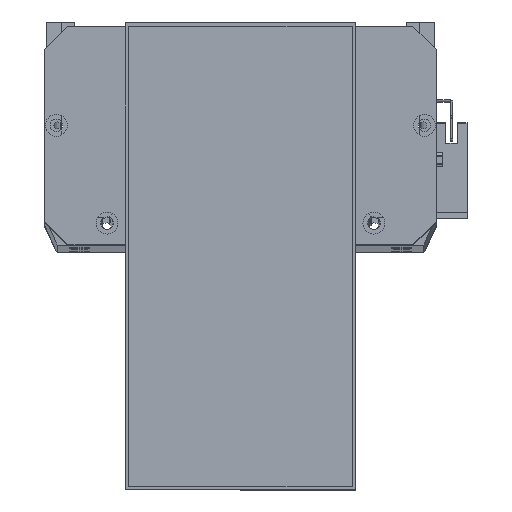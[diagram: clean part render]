
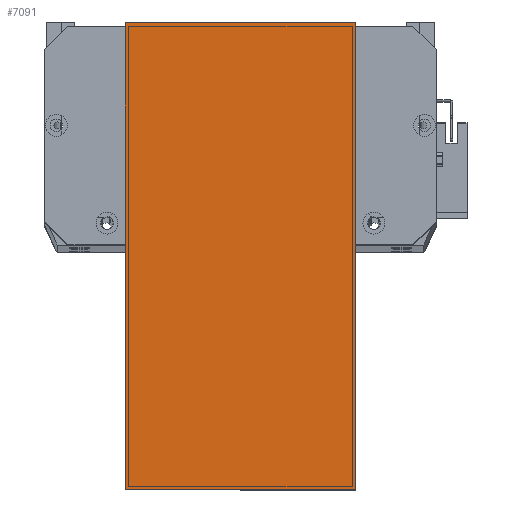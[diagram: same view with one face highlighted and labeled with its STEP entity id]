
A CAD part, top view. The second image highlights one B-rep face of the part: STEP entity #7091.
In plain terms, the highlighted planar face has unit normal (0, 0, 1) as drawn and (0, 0, -1) by its records, which use the part's own axes.
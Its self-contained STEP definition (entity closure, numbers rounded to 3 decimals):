
#2628 = LINE ( 'NONE', #20312, #14618 ) ;
#4939 = DIRECTION ( 'NONE',  ( 0., 1., 0. ) ) ;
#5746 = DIRECTION ( 'NONE',  ( 0., 0., -1. ) ) ;
#6015 = VECTOR ( 'NONE', #12414, 1000. ) ;
#6133 = DIRECTION ( 'NONE',  ( 1., 0., 0. ) ) ;
#6898 = ORIENTED_EDGE ( 'NONE', *, *, #18832, .F. ) ;
#7091 = ADVANCED_FACE ( 'NONE', ( #17807 ), #15233, .T. ) ;
#7902 = AXIS2_PLACEMENT_3D ( 'NONE', #29548, #5746, #22451 ) ;
#8773 = DIRECTION ( 'NONE',  ( 0., -1., 0. ) ) ;
#12287 = VERTEX_POINT ( 'NONE', #16881 ) ;
#12414 = DIRECTION ( 'NONE',  ( 1., 0., 0. ) ) ;
#12962 = VERTEX_POINT ( 'NONE', #19704 ) ;
#12963 = ORIENTED_EDGE ( 'NONE', *, *, #24236, .T. ) ;
#13871 = LINE ( 'NONE', #27873, #25806 ) ;
#14048 = ORIENTED_EDGE ( 'NONE', *, *, #15044, .F. ) ;
#14618 = VECTOR ( 'NONE', #6133, 1000. ) ;
#15044 = EDGE_CURVE ( 'NONE', #12287, #29657, #13871, .T. ) ;
#15233 = PLANE ( 'NONE',  #7902 ) ;
#16881 = CARTESIAN_POINT ( 'NONE',  ( 0., 119.5, 0. ) ) ;
#17727 = CARTESIAN_POINT ( 'NONE',  ( 203., 119.5, 0. ) ) ;
#17807 = FACE_OUTER_BOUND ( 'NONE', #29882, .T. ) ;
#18832 = EDGE_CURVE ( 'NONE', #12962, #21265, #28252, .T. ) ;
#19704 = CARTESIAN_POINT ( 'NONE',  ( 203., 19.5, 0. ) ) ;
#20312 = CARTESIAN_POINT ( 'NONE',  ( -12., 19.5, 0. ) ) ;
#20409 = VECTOR ( 'NONE', #4939, 1000. ) ;
#21265 = VERTEX_POINT ( 'NONE', #17727 ) ;
#22451 = DIRECTION ( 'NONE',  ( -1., 0., 0. ) ) ;
#24236 = EDGE_CURVE ( 'NONE', #12287, #21265, #30628, .T. ) ;
#24302 = CARTESIAN_POINT ( 'NONE',  ( -12., 119.5, 0. ) ) ;
#24958 = ORIENTED_EDGE ( 'NONE', *, *, #27446, .F. ) ;
#25806 = VECTOR ( 'NONE', #8773, 1000. ) ;
#27228 = CARTESIAN_POINT ( 'NONE',  ( 0., 19.5, 0. ) ) ;
#27446 = EDGE_CURVE ( 'NONE', #29657, #12962, #2628, .T. ) ;
#27873 = CARTESIAN_POINT ( 'NONE',  ( 0., 0., 0. ) ) ;
#28252 = LINE ( 'NONE', #28833, #20409 ) ;
#28833 = CARTESIAN_POINT ( 'NONE',  ( 203., 0., 0. ) ) ;
#29548 = CARTESIAN_POINT ( 'NONE',  ( 0., 0., 0. ) ) ;
#29657 = VERTEX_POINT ( 'NONE', #27228 ) ;
#29882 = EDGE_LOOP ( 'NONE', ( #24958, #14048, #12963, #6898 ) ) ;
#30628 = LINE ( 'NONE', #24302, #6015 ) ;
